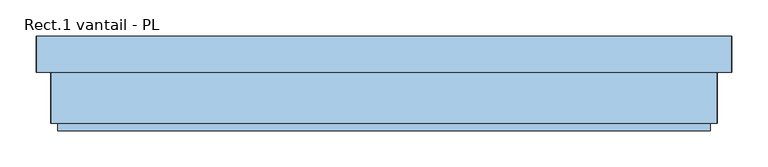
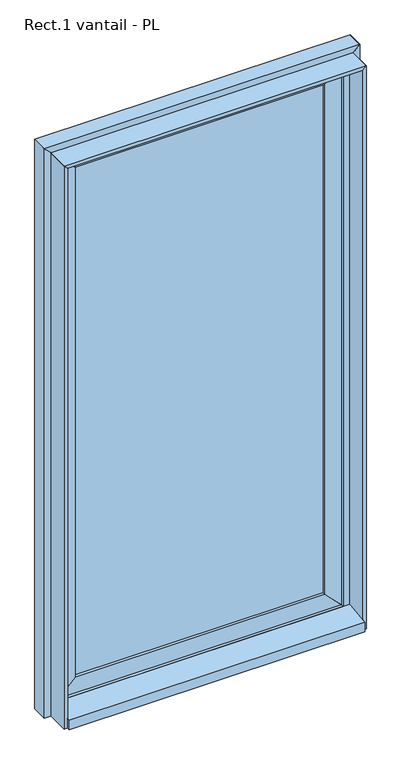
"""IFC4 building model written with IfcOpenShell, lengths in millimetres: window geometry, Rect.1 vantail - PL : 90x180cm à la française."""

from ifc_helpers import new_model, si_unit, frame, origin, origin_with_axes, place, context, project, spatial, polyline, outline, extrude, source, transform, mapped, element, save


def rect_1_vantail_pl_b2ed2115(model_context):
    return source(origin(), model_context, "Body", "SweptSolid", [
        extrude(outline(polyline([(380.0, -10.0), (380.0, -30.0), (-380.0, -30.0), (-380.0, -10.0), (380.0, -10.0)])), frame((0.0, 0.0, 90.0), z_axis=(0.0, 0.0, 1.0), x_axis=(1.0, 0.0, 0.0)), (0.0, 0.0, 1.0), 1640.0),
        extrude(outline(polyline([(40.0, -430.0), (90.0, -380.0), (1730.0, -380.0), (1780.0, -430.0), (40.0, -430.0)])), frame((0.0, -40.0, 0.0), z_axis=(0.0, 1.0, 0.0), x_axis=(0.0, 0.0, 1.0)), (0.0, 0.0, 1.0), 40.0),
        extrude(outline(polyline([(90.0, 380.0), (40.0, 430.0), (1780.0, 430.0), (1730.0, 380.0), (90.0, 380.0)])), frame((0.0, -40.0, 0.0), z_axis=(0.0, 1.0, 0.0), x_axis=(0.0, 0.0, 1.0)), (0.0, 0.0, 1.0), 40.0),
        extrude(outline(polyline([(1780.0, 430.0), (1780.0, -430.0), (1730.0, -380.0), (1730.0, 380.0), (1780.0, 430.0)])), frame((0.0, -40.0, 0.0), z_axis=(0.0, 1.0, 0.0), x_axis=(0.0, 0.0, 1.0)), (0.0, 0.0, 1.0), 40.0),
        extrude(outline(polyline([(40.0, 430.0), (90.0, 380.0), (90.0, -380.0), (40.0, -430.0), (40.0, 430.0)])), frame((0.0, -40.0, 0.0), z_axis=(0.0, 1.0, 0.0), x_axis=(0.0, 0.0, 1.0)), (0.0, 0.0, 1.0), 40.0),
        extrude(outline(polyline([(430.0, -50.0), (-430.0, -50.0), (-430.0, 0.0), (430.0, 0.0), (430.0, -50.0)])), origin_with_axes(), (0.0, 0.0, 1.0), 40.0),
        extrude(outline(polyline([(-130.0, 30.0), (-50.0, 40.0), (-50.0, 0.0), (-130.0, 0.0), (-130.0, 30.0)])), frame((-450.0, 0.0, 0.0), z_axis=(1.0, 0.0, 0.0), x_axis=(0.0, 1.0, 0.0)), (0.0, 0.0, 1.0), 900.0),
        extrude(outline(polyline([(1810.0, 460.0), (1800.0, 450.0), (0.0, 450.0), (0.0, 460.0), (1810.0, 460.0)])), frame((0.0, -120.0, 0.0), z_axis=(0.0, 1.0, 0.0), x_axis=(0.0, 0.0, 1.0)), (0.0, 0.0, 1.0), 70.0),
        extrude(outline(polyline([(1810.0, -460.0), (0.0, -460.0), (0.0, -450.0), (1800.0, -450.0), (1810.0, -460.0)])), frame((0.0, -120.0, 0.0), z_axis=(0.0, 1.0, 0.0), x_axis=(0.0, 0.0, 1.0)), (0.0, 0.0, 1.0), 70.0),
        extrude(outline(polyline([(0.0, -480.0), (0.0, -430.0), (1780.0, -430.0), (1830.0, -480.0), (0.0, -480.0)])), frame((0.0, -50.0, 0.0), z_axis=(0.0, 1.0, 0.0), x_axis=(0.0, 0.0, 1.0)), (0.0, 0.0, 1.0), 50.0),
        extrude(outline(polyline([(0.0, 480.0), (1830.0, 480.0), (1780.0, 430.0), (0.0, 430.0), (0.0, 480.0)])), frame((0.0, -50.0, 0.0), z_axis=(0.0, 1.0, 0.0), x_axis=(0.0, 0.0, 1.0)), (0.0, 0.0, 1.0), 50.0),
        extrude(outline(polyline([(1810.0, -460.0), (1800.0, -450.0), (1800.0, 450.0), (1810.0, 460.0), (1810.0, -460.0)])), frame((0.0, -120.0, 0.0), z_axis=(0.0, 1.0, 0.0), x_axis=(0.0, 0.0, 1.0)), (0.0, 0.0, 1.0), 70.0),
        extrude(outline(polyline([(1830.0, 480.0), (1830.0, -480.0), (1780.0, -430.0), (1780.0, 430.0), (1830.0, 480.0)])), frame((0.0, -50.0, 0.0), z_axis=(0.0, 1.0, 0.0), x_axis=(0.0, 0.0, 1.0)), (0.0, 0.0, 1.0), 50.0),
    ])


if __name__ == "__main__":
    model = new_model("IFC4")
    model_context = context("Model", 3, world=origin())
    ifc_project = project(units=[si_unit("LENGTHUNIT", "METRE", prefix="MILLI")], contexts=[model_context])
    site = spatial("IfcSite", under=ifc_project)
    building = spatial("IfcBuilding", under=site)
    placement = place(None, origin())
    rect_1_vantail_pl_shape = rect_1_vantail_pl_b2ed2115(model_context)
    element("IfcWindow", 1, ObjectType="Rect.1 vantail - PL : 90x180cm à la française", at=placement, inside=building, context=model_context, shape_type="MappedRepresentation", body=[
        mapped(rect_1_vantail_pl_shape, transform((0.0, 0.0, 0.0), x_axis=(1.0, 0.0, 0.0), y_axis=(0.0, 1.0, 0.0), z_axis=(0.0, 0.0, 1.0))),
    ])
    save(model, "model.ifc")
